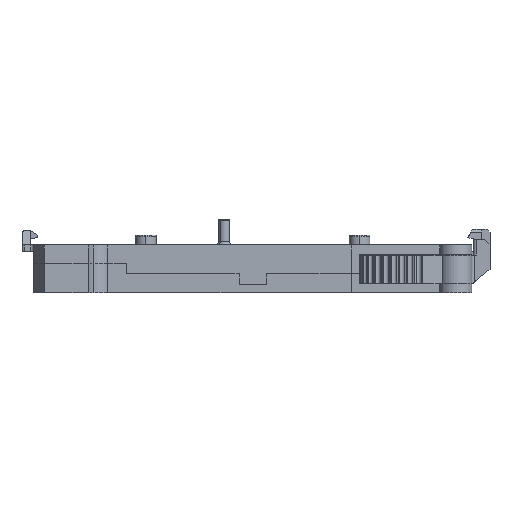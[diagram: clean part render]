
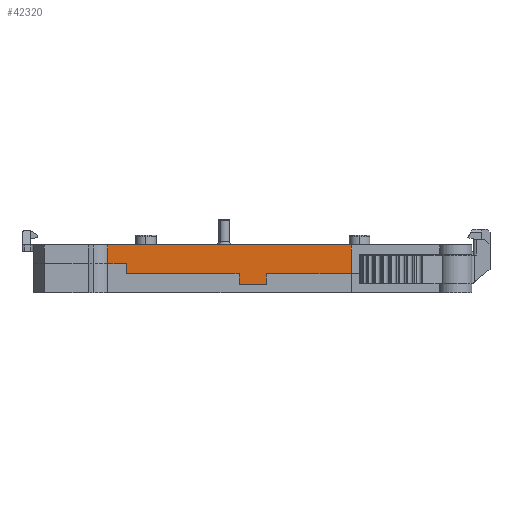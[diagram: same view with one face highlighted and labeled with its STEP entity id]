
A CAD part, left-side view. The second image highlights one B-rep face of the part: STEP entity #42320.
In plain terms, the highlighted planar face has unit normal (-1, 0, 0).
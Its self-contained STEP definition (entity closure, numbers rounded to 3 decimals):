
#164 = ORIENTED_EDGE ( 'NONE', *, *, #36200, .F. ) ;
#428 = VERTEX_POINT ( 'NONE', #41241 ) ;
#463 = DIRECTION ( 'NONE',  ( 0., -1., 0. ) ) ;
#862 = VERTEX_POINT ( 'NONE', #13792 ) ;
#1594 = CARTESIAN_POINT ( 'NONE',  ( -59., -47.962, 0. ) ) ;
#1598 = LINE ( 'NONE', #9757, #35995 ) ;
#2950 = ORIENTED_EDGE ( 'NONE', *, *, #28608, .F. ) ;
#2987 = DIRECTION ( 'NONE',  ( 0., 0., -1. ) ) ;
#3183 = VERTEX_POINT ( 'NONE', #22176 ) ;
#4563 = VERTEX_POINT ( 'NONE', #1594 ) ;
#5465 = EDGE_CURVE ( 'NONE', #6726, #9060, #41402, .T. ) ;
#5673 = AXIS2_PLACEMENT_3D ( 'NONE', #22953, #32411, #22671 ) ;
#6028 = EDGE_CURVE ( 'NONE', #862, #30133, #27215, .T. ) ;
#6726 = VERTEX_POINT ( 'NONE', #23897 ) ;
#7971 = LINE ( 'NONE', #10041, #24678 ) ;
#8137 = EDGE_CURVE ( 'NONE', #428, #4563, #32531, .T. ) ;
#8656 = LINE ( 'NONE', #29598, #29526 ) ;
#9060 = VERTEX_POINT ( 'NONE', #15077 ) ;
#9757 = CARTESIAN_POINT ( 'NONE',  ( -59., -19., 7.25 ) ) ;
#9831 = EDGE_CURVE ( 'NONE', #28802, #30133, #1598, .T. ) ;
#10041 = CARTESIAN_POINT ( 'NONE',  ( -59., -24., 7.25 ) ) ;
#10484 = DIRECTION ( 'NONE',  ( 0., -1., 0. ) ) ;
#10754 = ORIENTED_EDGE ( 'NONE', *, *, #41955, .T. ) ;
#11130 = ORIENTED_EDGE ( 'NONE', *, *, #17308, .F. ) ;
#11145 = ORIENTED_EDGE ( 'NONE', *, *, #30844, .F. ) ;
#11842 = CARTESIAN_POINT ( 'NONE',  ( -59., -47.962, 3.4 ) ) ;
#12035 = CARTESIAN_POINT ( 'NONE',  ( -59., -19., 5.25 ) ) ;
#12856 = PLANE ( 'NONE',  #5673 ) ;
#13759 = CARTESIAN_POINT ( 'NONE',  ( -59., -3.5, 1.2 ) ) ;
#13792 = CARTESIAN_POINT ( 'NONE',  ( -59., -3.5, 5.25 ) ) ;
#14772 = VECTOR ( 'NONE', #20175, 1000. ) ;
#15077 = CARTESIAN_POINT ( 'NONE',  ( -59., -44.5, 5.25 ) ) ;
#15099 = ORIENTED_EDGE ( 'NONE', *, *, #5465, .F. ) ;
#15579 = EDGE_LOOP ( 'NONE', ( #22745, #11130, #33647, #11145, #15099, #164, #2950, #40878, #23856, #10754 ) ) ;
#16506 = DIRECTION ( 'NONE',  ( 0., -1., 0. ) ) ;
#16601 = DIRECTION ( 'NONE',  ( 0., -1., 0. ) ) ;
#16767 = CARTESIAN_POINT ( 'NONE',  ( -59., -44.5, 5.25 ) ) ;
#17108 = DIRECTION ( 'NONE',  ( 0., 0., -1. ) ) ;
#17308 = EDGE_CURVE ( 'NONE', #35420, #4563, #8656, .T. ) ;
#17359 = FACE_OUTER_BOUND ( 'NONE', #15579, .T. ) ;
#18114 = VECTOR ( 'NONE', #10484, 1000. ) ;
#18354 = VECTOR ( 'NONE', #16601, 1000. ) ;
#18530 = CARTESIAN_POINT ( 'NONE',  ( -59., -44.5, 3.4 ) ) ;
#19643 = VECTOR ( 'NONE', #463, 1000. ) ;
#20175 = DIRECTION ( 'NONE',  ( 0., -1., 0. ) ) ;
#20257 = CARTESIAN_POINT ( 'NONE',  ( -59., -19., 7.25 ) ) ;
#22176 = CARTESIAN_POINT ( 'NONE',  ( -59., -24., 7.25 ) ) ;
#22671 = DIRECTION ( 'NONE',  ( 0., 0., -1. ) ) ;
#22745 = ORIENTED_EDGE ( 'NONE', *, *, #8137, .T. ) ;
#22953 = CARTESIAN_POINT ( 'NONE',  ( -59., -51.5, 1.2 ) ) ;
#23131 = VECTOR ( 'NONE', #2987, 1000. ) ;
#23495 = DIRECTION ( 'NONE',  ( 0., 0., -1. ) ) ;
#23856 = ORIENTED_EDGE ( 'NONE', *, *, #6028, .F. ) ;
#23897 = CARTESIAN_POINT ( 'NONE',  ( -59., -24., 5.25 ) ) ;
#24678 = VECTOR ( 'NONE', #23495, 1000. ) ;
#25187 = CARTESIAN_POINT ( 'NONE',  ( -59., -19., 7.25 ) ) ;
#27215 = LINE ( 'NONE', #32532, #18354 ) ;
#28365 = VECTOR ( 'NONE', #17108, 1000. ) ;
#28524 = LINE ( 'NONE', #40316, #18114 ) ;
#28608 = EDGE_CURVE ( 'NONE', #28802, #3183, #33160, .T. ) ;
#28802 = VERTEX_POINT ( 'NONE', #25187 ) ;
#29336 = CARTESIAN_POINT ( 'NONE',  ( -59., -51.5, 0. ) ) ;
#29526 = VECTOR ( 'NONE', #38982, 1000. ) ;
#29598 = CARTESIAN_POINT ( 'NONE',  ( -59., -47.962, 11.885 ) ) ;
#30133 = VERTEX_POINT ( 'NONE', #12035 ) ;
#30844 = EDGE_CURVE ( 'NONE', #9060, #35972, #35630, .T. ) ;
#32411 = DIRECTION ( 'NONE',  ( 1., 0., 0. ) ) ;
#32531 = LINE ( 'NONE', #29336, #14772 ) ;
#32532 = CARTESIAN_POINT ( 'NONE',  ( -59., -3.5, 5.25 ) ) ;
#33160 = LINE ( 'NONE', #20257, #19643 ) ;
#33647 = ORIENTED_EDGE ( 'NONE', *, *, #39281, .F. ) ;
#34053 = VECTOR ( 'NONE', #16506, 1000. ) ;
#35420 = VERTEX_POINT ( 'NONE', #11842 ) ;
#35630 = LINE ( 'NONE', #16767, #23131 ) ;
#35972 = VERTEX_POINT ( 'NONE', #18530 ) ;
#35995 = VECTOR ( 'NONE', #39284, 1000. ) ;
#36200 = EDGE_CURVE ( 'NONE', #3183, #6726, #7971, .T. ) ;
#38982 = DIRECTION ( 'NONE',  ( 0., 0., -1. ) ) ;
#39281 = EDGE_CURVE ( 'NONE', #35972, #35420, #28524, .T. ) ;
#39284 = DIRECTION ( 'NONE',  ( 0., 0., -1. ) ) ;
#39770 = CARTESIAN_POINT ( 'NONE',  ( -59., -3.5, 5.25 ) ) ;
#39895 = LINE ( 'NONE', #13759, #28365 ) ;
#40316 = CARTESIAN_POINT ( 'NONE',  ( -59., -3.5, 3.4 ) ) ;
#40878 = ORIENTED_EDGE ( 'NONE', *, *, #9831, .T. ) ;
#41241 = CARTESIAN_POINT ( 'NONE',  ( -59., -3.5, 0. ) ) ;
#41402 = LINE ( 'NONE', #39770, #34053 ) ;
#41955 = EDGE_CURVE ( 'NONE', #862, #428, #39895, .T. ) ;
#42320 = ADVANCED_FACE ( 'NONE', ( #17359 ), #12856, .F. ) ;
